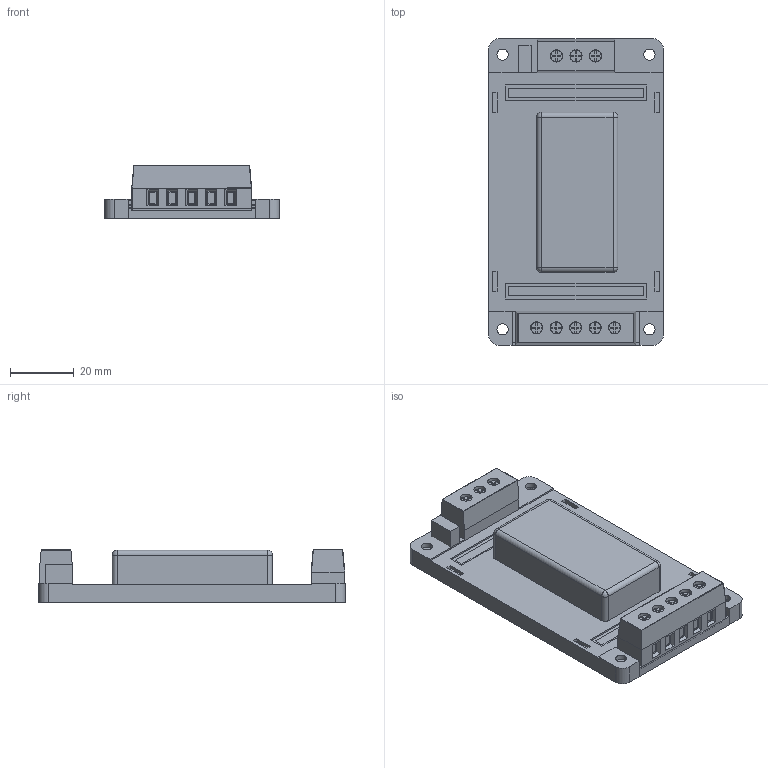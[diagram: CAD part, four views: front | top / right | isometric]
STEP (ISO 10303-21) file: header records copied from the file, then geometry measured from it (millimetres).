
FILE_DESCRIPTION((''),'2;1');
FILE_NAME('ST-A2_ASM','2016-02-01T',('arch'),(''),'PRO/ENGINEER BY PARAMETRIC TECHNOLOGY CORPORATION, 2008380','PRO/ENGINEER BY PARAMETRIC TECHNOLOGY CORPORATION, 2008380','');
FILE_SCHEMA(('AUTOMOTIVE_DESIGN { 1 2 10303 214 0 1 1 1 }'));
Length unit declared in the file: millimetre
Products named in the file (28): PRT0018; PRT0019; PRT0020; PRT0021; PRT0022; PRT0023; PRT0024; ASM0006_ASM_ASM_ASM_ASM_ASM; PRT0025; PRT0026; PRT0027; PRT0028; PRT0029; PRT0030; ASM0007_ASM_ASM_ASM_ASM_ASM; ASM0005_ASM_ASM_ASM_ASM_ASM; ASM0004_ASM_ASM_ASM_ASM_ASM; PRT0031; ASM0003_ASM_ASM_ASM_ASM_ASM; ASM0002_ASM_ASM_ASM_ASM_ASM; ST15_2; ASM0001_ASM_ASM_ASM_ASM_ASM; ST-A2_ASM_ASM_ASM_ASM; ST-A2_ASM_ASM_ASM; FCG_1; ST-A2_ASM_ASM; CU; ST-A2_ASM
Assembly tree (30 placements, depth 11):
  ST-A2_ASM
    ST-A2_ASM_ASM
      ST-A2_ASM_ASM_ASM
        ST-A2_ASM_ASM_ASM_ASM
          ASM0001_ASM_ASM_ASM_ASM_ASM
            ASM0002_ASM_ASM_ASM_ASM_ASM
              ASM0003_ASM_ASM_ASM_ASM_ASM
                ASM0004_ASM_ASM_ASM_ASM_ASM
                  ASM0005_ASM_ASM_ASM_ASM_ASM
                PRT0031
            ST15_2
      FCG_1  x2
    CU  x3
Bounding box: 54.6 x 95.9 x 16.5 mm (x, y, z)
Volume: 41301.1 mm3; surface area: 42753.5 mm2
Topology: 20 solids, 23 shells, 862 faces, 2208 edges, 1421 vertices
Faces by surface type: plane 563, cylinder 201, extrusion 54, torus 16, sphere 16, cone 12
Entity records: 33326 total; most frequent: CARTESIAN_POINT 5598, ORIENTED_EDGE 4228, DIRECTION 4155, EDGE_CURVE 2116, PRESENTATION_STYLE_ASSIGNMENT 2078, STYLED_ITEM 2078, CURVE_STYLE 2068, VECTOR 1469
